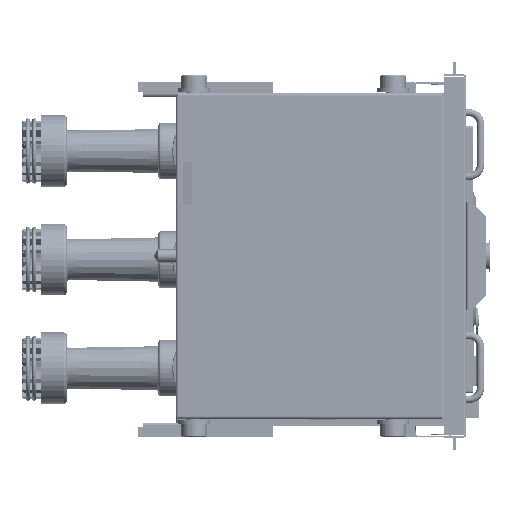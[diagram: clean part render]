
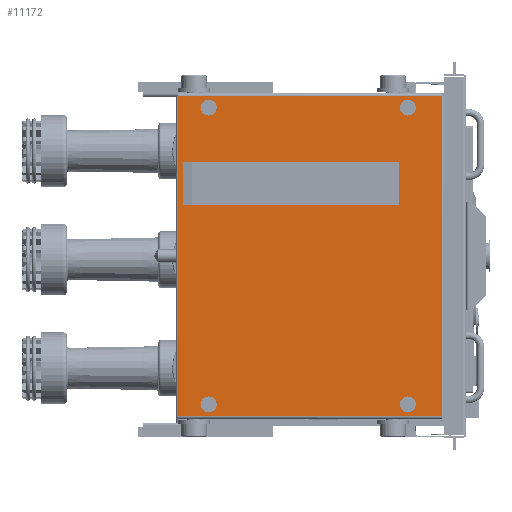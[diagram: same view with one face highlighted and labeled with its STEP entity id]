
A CAD part, front view. The second image highlights one B-rep face of the part: STEP entity #11172.
In plain terms, the highlighted planar face has unit normal (0, -1, 0).
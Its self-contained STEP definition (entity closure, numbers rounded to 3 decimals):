
#11172=ADVANCED_FACE('',(#54114,#54116,#54118,#54120,#54122,#54124),#54126,.F.);
#54114=FACE_BOUND('',#54115,.T.);
#54115=EDGE_LOOP('',(#91124,#91125,#91126,#91127));
#54116=FACE_BOUND('',#54117,.T.);
#54117=EDGE_LOOP('',(#91128));
#54118=FACE_BOUND('',#54119,.T.);
#54119=EDGE_LOOP('',(#91129));
#54120=FACE_BOUND('',#54121,.T.);
#54121=EDGE_LOOP('',(#91130));
#54122=FACE_BOUND('',#54123,.T.);
#54123=EDGE_LOOP('',(#91131));
#54124=FACE_BOUND('',#54125,.T.);
#54125=EDGE_LOOP('',(#91132,#91133,#91134,#91135));
#54126=PLANE('',#54127);
#54127=AXIS2_PLACEMENT_3D('',#54128,#54129,#54130);
#54128=CARTESIAN_POINT('',(-40.472,-266.251,-116.86));
#54129=DIRECTION('',(0.,1.,0.));
#54130=DIRECTION('',(1.,0.,0.));
#91124=ORIENTED_EDGE('',*,*,#114617,.T.);
#91125=ORIENTED_EDGE('',*,*,#114850,.T.);
#91126=ORIENTED_EDGE('',*,*,#114595,.T.);
#91127=ORIENTED_EDGE('',*,*,#114851,.T.);
#91128=ORIENTED_EDGE('',*,*,#114852,.T.);
#91129=ORIENTED_EDGE('',*,*,#114853,.T.);
#91130=ORIENTED_EDGE('',*,*,#114854,.T.);
#91131=ORIENTED_EDGE('',*,*,#114855,.T.);
#91132=ORIENTED_EDGE('',*,*,#114856,.F.);
#91133=ORIENTED_EDGE('',*,*,#114857,.F.);
#91134=ORIENTED_EDGE('',*,*,#114858,.F.);
#91135=ORIENTED_EDGE('',*,*,#114859,.T.);
#114595=EDGE_CURVE('',#129903,#129904,#129905,.T.);
#114617=EDGE_CURVE('',#129935,#129936,#129937,.T.);
#114850=EDGE_CURVE('',#129936,#129903,#130282,.T.);
#114851=EDGE_CURVE('',#129904,#129935,#130283,.T.);
#114852=EDGE_CURVE('',#130284,#130284,#130285,.T.);
#114853=EDGE_CURVE('',#130286,#130286,#130287,.T.);
#114854=EDGE_CURVE('',#130288,#130288,#130289,.T.);
#114855=EDGE_CURVE('',#130290,#130290,#130291,.T.);
#114856=EDGE_CURVE('',#130292,#130293,#130294,.T.);
#114857=EDGE_CURVE('',#130295,#130292,#130296,.T.);
#114858=EDGE_CURVE('',#130297,#130295,#130298,.T.);
#114859=EDGE_CURVE('',#130297,#130293,#130299,.T.);
#129903=VERTEX_POINT('',#165182);
#129904=VERTEX_POINT('',#165183);
#129905=LINE('',#165184,#165185);
#129935=VERTEX_POINT('',#165294);
#129936=VERTEX_POINT('',#165295);
#129937=LINE('',#165296,#165297);
#130282=LINE('',#167686,#167687);
#130283=LINE('',#167689,#167690);
#130284=VERTEX_POINT('',#167692);
#130285=CIRCLE('',#167693,11.);
#130286=VERTEX_POINT('',#167697);
#130287=CIRCLE('',#167698,11.);
#130288=VERTEX_POINT('',#167702);
#130289=CIRCLE('',#167703,11.);
#130290=VERTEX_POINT('',#167707);
#130291=CIRCLE('',#167708,11.);
#130292=VERTEX_POINT('',#167712);
#130293=VERTEX_POINT('',#167713);
#130294=LINE('',#167714,#167715);
#130295=VERTEX_POINT('',#167717);
#130296=LINE('',#167718,#167719);
#130297=VERTEX_POINT('',#167721);
#130298=LINE('',#167722,#167723);
#130299=LINE('',#167725,#167726);
#165182=CARTESIAN_POINT('',(-237.482,-266.251,-216.263));
#165183=CARTESIAN_POINT('',(126.044,-266.251,-216.263));
#165184=CARTESIAN_POINT('',(-237.482,-266.251,-216.263));
#165185=VECTOR('',#165186,1.);
#165186=DIRECTION('',(1.,0.,0.));
#165294=CARTESIAN_POINT('',(126.044,-266.251,226.263));
#165295=CARTESIAN_POINT('',(-237.482,-266.251,226.263));
#165296=CARTESIAN_POINT('',(126.044,-266.251,226.263));
#165297=VECTOR('',#165298,1.);
#165298=DIRECTION('',(-1.,0.,0.));
#167686=CARTESIAN_POINT('',(-237.482,-266.251,226.263));
#167687=VECTOR('',#167688,1.);
#167688=DIRECTION('',(0.,0.,-1.));
#167689=CARTESIAN_POINT('',(126.044,-266.251,-216.263));
#167690=VECTOR('',#167691,1.);
#167691=DIRECTION('',(0.,0.,1.));
#167692=CARTESIAN_POINT('',(90.281,-266.251,210.));
#167693=AXIS2_PLACEMENT_3D('',#167694,#167695,#167696);
#167694=CARTESIAN_POINT('',(79.281,-266.251,210.));
#167695=DIRECTION('',(0.,1.,0.));
#167696=DIRECTION('',(1.,0.,0.));
#167697=CARTESIAN_POINT('',(-184.719,-266.251,-200.));
#167698=AXIS2_PLACEMENT_3D('',#167699,#167700,#167701);
#167699=CARTESIAN_POINT('',(-195.719,-266.251,-200.));
#167700=DIRECTION('',(0.,1.,0.));
#167701=DIRECTION('',(1.,0.,0.));
#167702=CARTESIAN_POINT('',(90.281,-266.251,-200.));
#167703=AXIS2_PLACEMENT_3D('',#167704,#167705,#167706);
#167704=CARTESIAN_POINT('',(79.281,-266.251,-200.));
#167705=DIRECTION('',(0.,1.,0.));
#167706=DIRECTION('',(1.,0.,0.));
#167707=CARTESIAN_POINT('',(-184.719,-266.251,210.));
#167708=AXIS2_PLACEMENT_3D('',#167709,#167710,#167711);
#167709=CARTESIAN_POINT('',(-195.719,-266.251,210.));
#167710=DIRECTION('',(0.,1.,0.));
#167711=DIRECTION('',(1.,0.,0.));
#167712=CARTESIAN_POINT('',(66.781,-266.251,135.));
#167713=CARTESIAN_POINT('',(-231.886,-266.251,135.));
#167714=CARTESIAN_POINT('',(66.781,-266.251,135.));
#167715=VECTOR('',#167716,1.);
#167716=DIRECTION('',(-1.,0.,0.));
#167717=CARTESIAN_POINT('',(66.781,-266.251,75.));
#167718=CARTESIAN_POINT('',(66.781,-266.251,75.));
#167719=VECTOR('',#167720,1.);
#167720=DIRECTION('',(0.,0.,1.));
#167721=CARTESIAN_POINT('',(-231.886,-266.251,75.));
#167722=CARTESIAN_POINT('',(-231.886,-266.251,75.));
#167723=VECTOR('',#167724,1.);
#167724=DIRECTION('',(1.,0.,0.));
#167725=CARTESIAN_POINT('',(-231.886,-266.251,75.));
#167726=VECTOR('',#167727,1.);
#167727=DIRECTION('',(0.,0.,1.));
